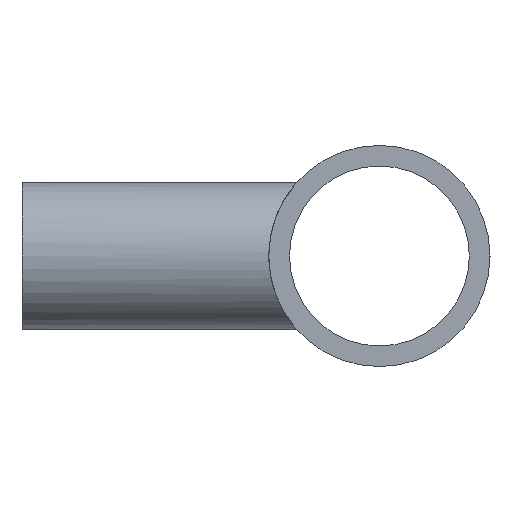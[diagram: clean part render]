
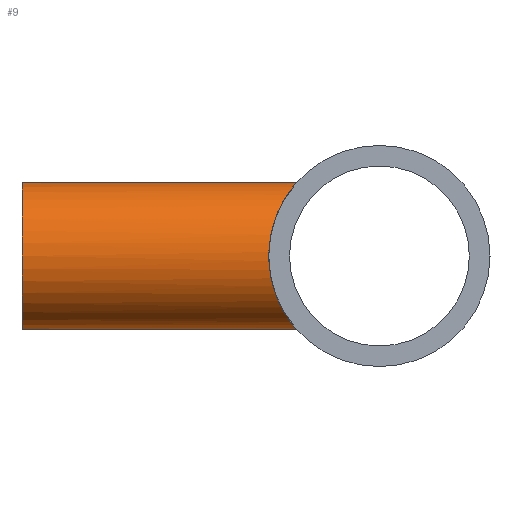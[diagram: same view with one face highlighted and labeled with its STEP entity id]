
A CAD part, left-side view. The second image highlights one B-rep face of the part: STEP entity #9.
In plain terms, the highlighted cylindrical face has radius 3.175 mm (diameter 6.35 mm), a partial arc.
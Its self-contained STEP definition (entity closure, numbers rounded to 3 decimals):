
#1 = VECTOR ( 'NONE', #89, 1000. ) ;
#3 = CARTESIAN_POINT ( 'NONE',  ( 0., -500000., 0. ) ) ;
#9 = ADVANCED_FACE ( 'NONE', ( #80 ), #107, .T. ) ;
#25 = CARTESIAN_POINT ( 'NONE',  ( -0.218, 3.553, 3.175 ) ) ;
#28 = CARTESIAN_POINT ( 'NONE',  ( -2.511, 4.35, 1.954 ) ) ;
#31 = CARTESIAN_POINT ( 'NONE',  ( 0., 3.553, 3.175 ) ) ;
#45 = CARTESIAN_POINT ( 'NONE',  ( -3.005, 4.653, -1.045 ) ) ;
#54 = ORIENTED_EDGE ( 'NONE', *, *, #134, .T. ) ;
#57 = CARTESIAN_POINT ( 'NONE',  ( 0., 15.4, 3.175 ) ) ;
#58 = CARTESIAN_POINT ( 'NONE',  ( -0.848, 3.647, -3.067 ) ) ;
#61 = CARTESIAN_POINT ( 'NONE',  ( 0., 3.553, 3.175 ) ) ;
#63 = VERTEX_POINT ( 'NONE', #392 ) ;
#76 = CARTESIAN_POINT ( 'NONE',  ( -1.604, 3.895, 2.748 ) ) ;
#79 = CARTESIAN_POINT ( 'NONE',  ( -3.154, 4.751, -0.423 ) ) ;
#80 = FACE_OUTER_BOUND ( 'NONE', #400, .T. ) ;
#82 = CARTESIAN_POINT ( 'NONE',  ( -0.429, 3.573, 3.153 ) ) ;
#89 = DIRECTION ( 'NONE',  ( 0., 1., 0. ) ) ;
#92 = CARTESIAN_POINT ( 'NONE',  ( 0., -500000., -3.175 ) ) ;
#107 = CYLINDRICAL_SURFACE ( 'NONE', #436, 3.175 ) ;
#125 = CARTESIAN_POINT ( 'NONE',  ( -2.512, 4.351, -1.952 ) ) ;
#129 = DIRECTION ( 'NONE',  ( 0., -1., 0. ) ) ;
#132 = CARTESIAN_POINT ( 'NONE',  ( 0., 15.4, 0. ) ) ;
#133 = CARTESIAN_POINT ( 'NONE',  ( -2.743, 4.488, -1.612 ) ) ;
#134 = EDGE_CURVE ( 'NONE', #195, #63, #406, .T. ) ;
#136 = DIRECTION ( 'NONE',  ( 0., 1., 0. ) ) ;
#143 = CARTESIAN_POINT ( 'NONE',  ( -1.051, 3.701, -3.003 ) ) ;
#144 = CARTESIAN_POINT ( 'NONE',  ( -2.842, 4.55, -1.43 ) ) ;
#146 = CARTESIAN_POINT ( 'NONE',  ( -1.43, 3.826, -2.842 ) ) ;
#147 = ORIENTED_EDGE ( 'NONE', *, *, #397, .F. ) ;
#150 = CARTESIAN_POINT ( 'NONE',  ( -2.383, 4.277, -2.107 ) ) ;
#152 = DIRECTION ( 'NONE',  ( 0., 0., 1. ) ) ;
#179 = VERTEX_POINT ( 'NONE', #31 ) ;
#195 = VERTEX_POINT ( 'NONE', #57 ) ;
#197 = EDGE_CURVE ( 'NONE', #261, #63, #265, .T. ) ;
#200 = CARTESIAN_POINT ( 'NONE',  ( -2.098, 4.125, -2.391 ) ) ;
#203 = CARTESIAN_POINT ( 'NONE',  ( -0.843, 3.646, 3.068 ) ) ;
#219 = LINE ( 'NONE', #234, #1 ) ;
#225 = ORIENTED_EDGE ( 'NONE', *, *, #197, .F. ) ;
#233 = B_SPLINE_CURVE_WITH_KNOTS ( 'NONE', 3,
 ( #61, #25, #82, #203, #415, #404, #76, #435, #396, #327, #28, #345, #355, #352, #393, #329, #323, #374, #79, #325, #45, #144, #133, #125, #150, #200, #377, #386, #146, #143, #58, #340, #346, #357 ),
 .UNSPECIFIED., .F., .F.,
 ( 4, 2, 2, 2, 2, 2, 2, 2, 2, 2, 2, 2, 2, 2, 2, 2, 4 ),
 ( 0., 0.001, 0.001, 0.002, 0.003, 0.003, 0.004, 0.004, 0.005, 0.006, 0.006, 0.007, 0.008, 0.008, 0.009, 0.01, 0.01 ),
 .UNSPECIFIED. ) ;
#234 = CARTESIAN_POINT ( 'NONE',  ( 0., -500000., 3.175 ) ) ;
#253 = AXIS2_PLACEMENT_3D ( 'NONE', #132, #129, #152 ) ;
#261 = VERTEX_POINT ( 'NONE', #368 ) ;
#265 = LINE ( 'NONE', #92, #431 ) ;
#280 = ORIENTED_EDGE ( 'NONE', *, *, #314, .T. ) ;
#305 = DIRECTION ( 'NONE',  ( 0., 0., 1. ) ) ;
#307 = DIRECTION ( 'NONE',  ( 0., 1., 0. ) ) ;
#314 = EDGE_CURVE ( 'NONE', #179, #195, #219, .T. ) ;
#323 = CARTESIAN_POINT ( 'NONE',  ( -3.174, 4.765, 0.225 ) ) ;
#325 = CARTESIAN_POINT ( 'NONE',  ( -3.069, 4.695, -0.84 ) ) ;
#327 = CARTESIAN_POINT ( 'NONE',  ( -2.38, 4.275, 2.111 ) ) ;
#329 = CARTESIAN_POINT ( 'NONE',  ( -3.152, 4.75, 0.437 ) ) ;
#340 = CARTESIAN_POINT ( 'NONE',  ( -0.434, 3.574, -3.152 ) ) ;
#345 = CARTESIAN_POINT ( 'NONE',  ( -2.739, 4.486, 1.618 ) ) ;
#346 = CARTESIAN_POINT ( 'NONE',  ( -0.218, 3.553, -3.175 ) ) ;
#352 = CARTESIAN_POINT ( 'NONE',  ( -3.001, 4.651, 1.057 ) ) ;
#355 = CARTESIAN_POINT ( 'NONE',  ( -2.838, 4.547, 1.439 ) ) ;
#357 = CARTESIAN_POINT ( 'NONE',  ( 0., 3.553, -3.175 ) ) ;
#368 = CARTESIAN_POINT ( 'NONE',  ( 0., 3.553, -3.175 ) ) ;
#374 = CARTESIAN_POINT ( 'NONE',  ( -3.176, 4.765, -0.208 ) ) ;
#377 = CARTESIAN_POINT ( 'NONE',  ( -1.941, 4.046, -2.521 ) ) ;
#386 = CARTESIAN_POINT ( 'NONE',  ( -1.607, 3.897, -2.746 ) ) ;
#392 = CARTESIAN_POINT ( 'NONE',  ( 0., 15.4, -3.175 ) ) ;
#393 = CARTESIAN_POINT ( 'NONE',  ( -3.066, 4.693, 0.852 ) ) ;
#396 = CARTESIAN_POINT ( 'NONE',  ( -2.095, 4.123, 2.394 ) ) ;
#397 = EDGE_CURVE ( 'NONE', #179, #261, #233, .T. ) ;
#400 = EDGE_LOOP ( 'NONE', ( #225, #147, #280, #54 ) ) ;
#404 = CARTESIAN_POINT ( 'NONE',  ( -1.424, 3.824, 2.845 ) ) ;
#406 = CIRCLE ( 'NONE', #253, 3.175 ) ;
#415 = CARTESIAN_POINT ( 'NONE',  ( -1.046, 3.699, 3.005 ) ) ;
#431 = VECTOR ( 'NONE', #136, 1000. ) ;
#435 = CARTESIAN_POINT ( 'NONE',  ( -1.94, 4.046, 2.521 ) ) ;
#436 = AXIS2_PLACEMENT_3D ( 'NONE', #3, #307, #305 ) ;
